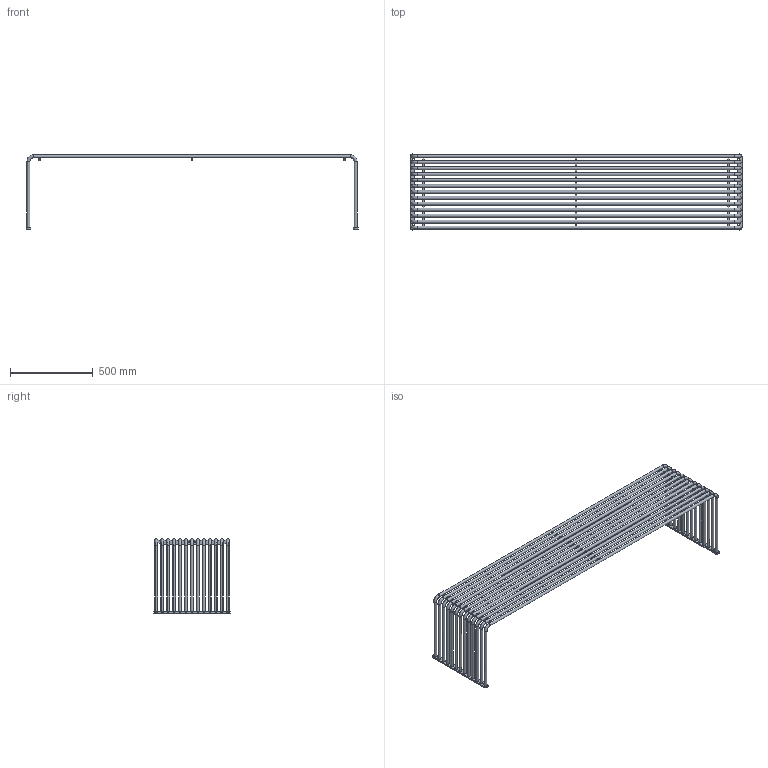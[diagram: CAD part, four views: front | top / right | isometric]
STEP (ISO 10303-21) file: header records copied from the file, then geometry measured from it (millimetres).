
FILE_DESCRIPTION(('STEP AP214'),'1');
FILE_NAME('015 Panca piana.stp','2016-08-03T07:51:44',(' '),(' '),'Spatial InterOp 3D',' ',' ');
FILE_SCHEMA(('automotive_design'));
Length unit declared in the file: millimetre
Products named in the file (1): 015 Panca piana
Bounding box: 2012 x 462 x 450 mm (x, y, z)
Surface area: 2741434.5 mm2 (no closed solid volume)
Topology: 0 solids, 266 shells, 266 faces, 1245 edges, 1092 vertices
Faces by surface type: cylinder 129, plane 79, torus 52, extrusion 6
Full cylindrical faces by diameter (mm): 6 x6, 10.5 x4, 14 x26, 18 x39, 18.4 x26
Entity records: 14194 total; most frequent: CARTESIAN_POINT 2553, DIRECTION 2302, ORIENTED_EDGE 1086, EDGE_CURVE 1086, VERTEX_POINT 1086, AXIS2_PLACEMENT_3D 997, CIRCLE 736, FACE_BOUND 517
